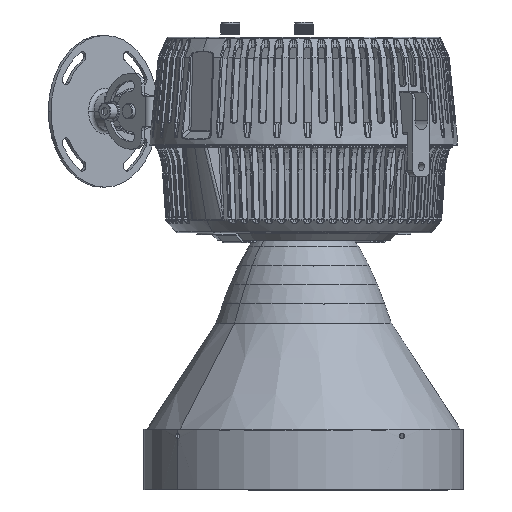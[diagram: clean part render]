
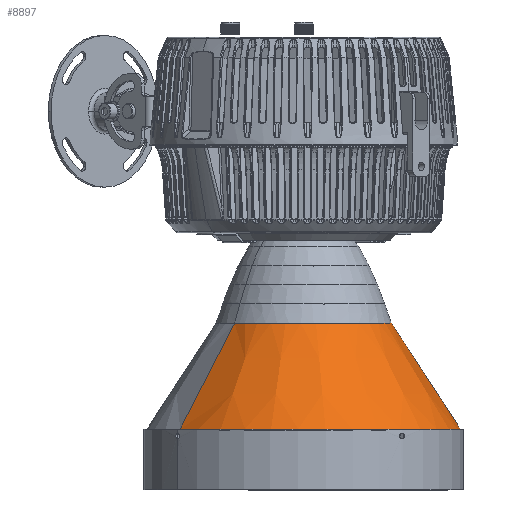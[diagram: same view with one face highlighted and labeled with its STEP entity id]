
A CAD part, front view. The second image highlights one B-rep face of the part: STEP entity #8897.
In plain terms, the highlighted conical face has half-angle 33 degrees and reference radius 123.852 mm.
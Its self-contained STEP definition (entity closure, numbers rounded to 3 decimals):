
#8567 = CARTESIAN_POINT ( 'NONE',  ( 0., 36.572, 0. ) ) ;
#8897 = ADVANCED_FACE ( 'NONE', ( #37113 ), #154901, .T. ) ;
#9622 = AXIS2_PLACEMENT_3D ( 'NONE', #72593, #270311, #248030 ) ;
#21299 = DIRECTION ( 'NONE',  ( 0.545, 0.839, 0. ) ) ;
#21954 = CARTESIAN_POINT ( 'NONE',  ( -123.852, 36.572, 0. ) ) ;
#24819 = EDGE_CURVE ( 'NONE', #252022, #93763, #274435, .T. ) ;
#36476 = CARTESIAN_POINT ( 'NONE',  ( -123.852, 36.572, 0. ) ) ;
#37113 = FACE_OUTER_BOUND ( 'NONE', #74858, .T. ) ;
#37798 = DIRECTION ( 'NONE',  ( -1., 0., 0. ) ) ;
#51386 = VERTEX_POINT ( 'NONE', #260595 ) ;
#58973 = CARTESIAN_POINT ( 'NONE',  ( 69.431, -47.228, 0. ) ) ;
#62817 = LINE ( 'NONE', #163188, #110122 ) ;
#72593 = CARTESIAN_POINT ( 'NONE',  ( 0., 36.572, 0. ) ) ;
#74858 = EDGE_LOOP ( 'NONE', ( #76479, #110534, #132119, #310233 ) ) ;
#76479 = ORIENTED_EDGE ( 'NONE', *, *, #257856, .F. ) ;
#82964 = CARTESIAN_POINT ( 'NONE',  ( -69.431, -47.228, 0. ) ) ;
#88654 = AXIS2_PLACEMENT_3D ( 'NONE', #8567, #128070, #105712 ) ;
#93763 = VERTEX_POINT ( 'NONE', #82964 ) ;
#105712 = DIRECTION ( 'NONE',  ( -1., 0., 0. ) ) ;
#110122 = VECTOR ( 'NONE', #21299, 1000. ) ;
#110534 = ORIENTED_EDGE ( 'NONE', *, *, #24819, .T. ) ;
#119919 = VERTEX_POINT ( 'NONE', #21954 ) ;
#128070 = DIRECTION ( 'NONE',  ( 0., 1., 0. ) ) ;
#129514 = EDGE_CURVE ( 'NONE', #51386, #119919, #294759, .T. ) ;
#132119 = ORIENTED_EDGE ( 'NONE', *, *, #201868, .T. ) ;
#154901 = CONICAL_SURFACE ( 'NONE', #88654, 123.852, 0.576 ) ;
#163188 = CARTESIAN_POINT ( 'NONE',  ( 123.852, 36.572, 0. ) ) ;
#163907 = VECTOR ( 'NONE', #210178, 1000. ) ;
#181323 = CARTESIAN_POINT ( 'NONE',  ( 0., -47.228, 0. ) ) ;
#201868 = EDGE_CURVE ( 'NONE', #93763, #119919, #302759, .T. ) ;
#210178 = DIRECTION ( 'NONE',  ( -0.545, 0.839, 0. ) ) ;
#248030 = DIRECTION ( 'NONE',  ( -1., 0., 0. ) ) ;
#252022 = VERTEX_POINT ( 'NONE', #58973 ) ;
#257856 = EDGE_CURVE ( 'NONE', #252022, #51386, #62817, .T. ) ;
#260595 = CARTESIAN_POINT ( 'NONE',  ( 123.852, 36.572, 0. ) ) ;
#264202 = AXIS2_PLACEMENT_3D ( 'NONE', #181323, #305630, #37798 ) ;
#270311 = DIRECTION ( 'NONE',  ( 0., 1., 0. ) ) ;
#274435 = CIRCLE ( 'NONE', #264202, 69.431 ) ;
#294759 = CIRCLE ( 'NONE', #9622, 123.852 ) ;
#302759 = LINE ( 'NONE', #36476, #163907 ) ;
#305630 = DIRECTION ( 'NONE',  ( 0., 1., 0. ) ) ;
#310233 = ORIENTED_EDGE ( 'NONE', *, *, #129514, .F. ) ;
